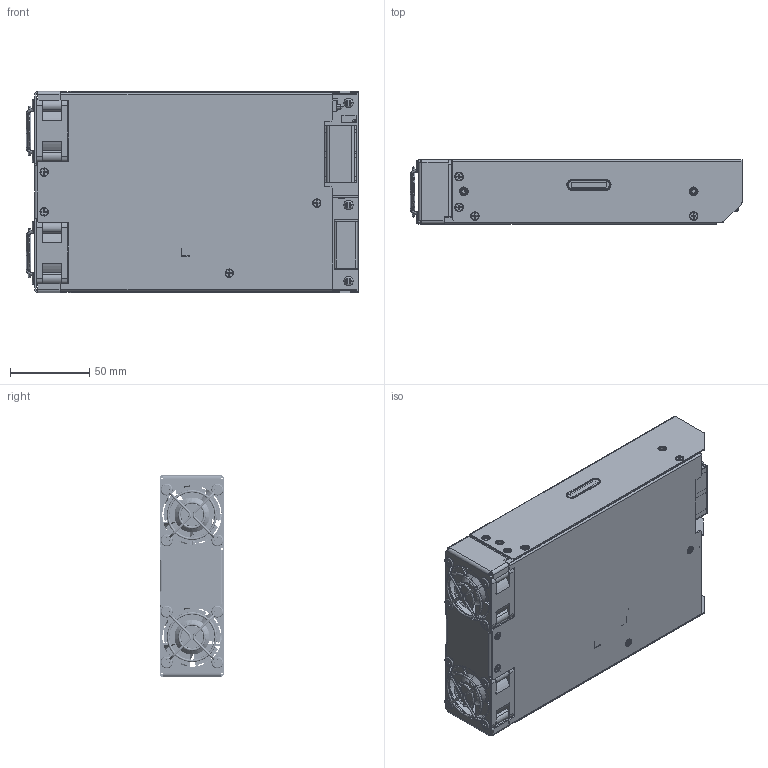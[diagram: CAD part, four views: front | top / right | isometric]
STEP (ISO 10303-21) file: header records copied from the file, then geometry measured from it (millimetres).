
FILE_DESCRIPTION((''),'2;1');
FILE_NAME('MEDICAL_1KW_ASS_ASM_77_ASM_12_ASM','2017-03-13T',('Steven.Che'),(''),'PRO/ENGINEER BY PARAMETRIC TECHNOLOGY CORPORATION, 2012480','PRO/ENGINEER BY PARAMETRIC TECHNOLOGY CORPORATION, 2012480','');
FILE_SCHEMA(('AUTOMOTIVE_DESIGN { 1 0 10303 214 1 1 1 1 }'));
Products named in the file (62): CHASSIS_1KW_1_AF0_66_12; PEM_SO_M3_4_5_7_12; PEM_S-M3-0_8_12; TOPCOVER_ASS_ASM_44_ASM_12_ASM; FRONT_PANEL_45_12; MANIFOLD_SOLID_BREP_24337_12; MANIFOLD_SOLID_BREP_25920_12; 3620479111_1_5_ASM_12_ASM; MANIFOLD_SOLID_BREP_26540_12; MANIFOLD_SOLID_BREP_27475_12; MANIFOLD_SOLID_BREP_27612_12; MANIFOLD_SOLID_BREP_28542_12; FANGUARD_1_ASM_12_ASM; 3109023200_AF0_1_2_12; FAN_ASSY__ASM_3_ASM_2_ASM_1_ASM_ASM; CHASSIS_ASS_ASM_4_ASM_12_ASM; PWB_47_25; CONTROL_B_1_25_25; MANIFOLD_SOLID_BREP_526902_25; MANIFOLD_SOLID_BREP_527783_25; MANIFOLD_SOLID_BREP_528664_25; MANIFOLD_SOLID_BREP_529545_25; MANIFOLD_SOLID_BREP_530426_25; MANIFOLD_SOLID_BREP_531307_25; MANIFOLD_SOLID_BREP_532188_25; MANIFOLD_SOLID_BREP_533069_25; MANIFOLD_SOLID_BREP_533950_25; MANIFOLD_SOLID_BREP_534831_25; F-PIN-10_3_ASM_25_ASM; LED-3Y_1_25; LED5GREEN_2_25; LED_ASSEMBLY_1_ASM_2_ASM_25_ASM; A2005WR0_2CX7P_1_25; MANIFOLD_SOLID_BREP_547927_25; MANIFOLD_SOLID_BREP_548808_25; MANIFOLD_SOLID_BREP_549689_25; MANIFOLD_SOLID_BREP_550570_25; MANIFOLD_SOLID_BREP_551451_25; MANIFOLD_SOLID_BREP_552332_25; F-PIN-6_2_ASM_25_ASM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
Assembly tree (112 placements, depth 5):
  MEDICAL_1KW_ASS_ASM_77_ASM_12_ASM
    CHASSIS_ASS_ASM_4_ASM_12_ASM
      TOPCOVER_ASS_ASM_44_ASM_12_ASM
        CHASSIS_1KW_1_AF0_66_12
        PEM_SO_M3_4_5_7_12  x9
        PEM_S-M3-0_8_12  x4
      FAN_ASSY__ASM_3_ASM_2_ASM_1_ASM_ASM
        FRONT_PANEL_45_12
        3620479111_1_5_ASM_12_ASM  x2
          MANIFOLD_SOLID_BREP_24337_12
          MANIFOLD_SOLID_BREP_25920_12
        FANGUARD_1_ASM_12_ASM  x2
          MANIFOLD_SOLID_BREP_26540_12
          MANIFOLD_SOLID_BREP_27475_12
          MANIFOLD_SOLID_BREP_27612_12
          MANIFOLD_SOLID_BREP_28542_12
        3109023200_AF0_1_2_12  x8
    PWB_MAIN_ASS_ASM_100_ASM_25_ASM
      PWB_47_25
      CONTROL_B_ASS_ASM_28_ASM_25_ASM
        CONTROL_B_1_25_25
        F-PIN-10_3_ASM_25_ASM  x3
          MANIFOLD_SOLID_BREP_526902_25
          MANIFOLD_SOLID_BREP_527783_25
          MANIFOLD_SOLID_BREP_528664_25
          MANIFOLD_SOLID_BREP_529545_25
          MANIFOLD_SOLID_BREP_530426_25
          MANIFOLD_SOLID_BREP_531307_25
          MANIFOLD_SOLID_BREP_532188_25
          MANIFOLD_SOLID_BREP_533069_25
          MANIFOLD_SOLID_BREP_533950_25
          MANIFOLD_SOLID_BREP_534831_25
        LED_ASSEMBLY_1_ASM_2_ASM_25_ASM
          LED-3Y_1_25
          LED5GREEN_2_25
        A2005WR0_2CX7P_1_25
        F-PIN-6_2_ASM_25_ASM
          MANIFOLD_SOLID_BREP_547927_25
          MANIFOLD_SOLID_BREP_548808_25
          MANIFOLD_SOLID_BREP_549689_25
          MANIFOLD_SOLID_BREP_550570_25
          MANIFOLD_SOLID_BREP_551451_25
          MANIFOLD_SOLID_BREP_552332_25
      OUTPUT_CONN_6_ASM_25_ASM
        MANIFOLD_SOLID_BREP_648275_25
        MANIFOLD_SOLID_BREP_650843_25
      D0022119_2_ASM_25_ASM  x2
      AUX_MOS_ASM_3_ASM_25_ASM
      INPUT_CONN_MED600ST_ASM_2_ASM_2_ASM
        DT-35C-B01W-03_3_25
        MANIFOLD_SOLID_BREP_7166_4_25  x3
      0602312005_3_25
      SHIELD_ASS_ASM_33_ASM_25_ASM
        SHIELD_60_25
        PIN_19_3_63  x3
        YELLOW_TAP_SHIELD_2_4_25
    COVER_1KW_ASS_ASM_20_ASM_12_ASM
      COVER_1KW_1_78_12
    SCREW_DIN965_M2_5_04_1_2_12  x12
    3109023200_AF0_1_2_12  x8
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Bounding box: 209.45 x 40.6 x 127 mm (x, y, z)
Volume: 158138.3 mm3; surface area: 324978.5 mm2
Topology: 116 solids, 145 shells, 4769 faces, 12690 edges, 8198 vertices
Faces by surface type: plane 2864, cylinder 1282, cone 306, bspline 205, torus 104, sphere 8
Entity records: 97325 total; most frequent: CARTESIAN_POINT 18009, DIRECTION 14103, ORIENTED_EDGE 13729, EDGE_CURVE 6907, VECTOR 4811, LINE 4811, AXIS2_PLACEMENT_3D 4646, VERTEX_POINT 4551
